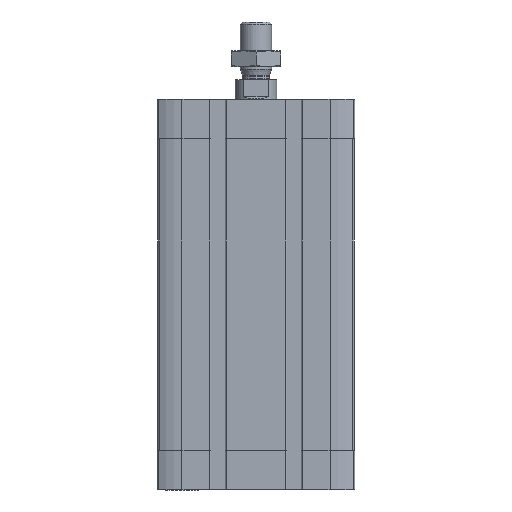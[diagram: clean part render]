
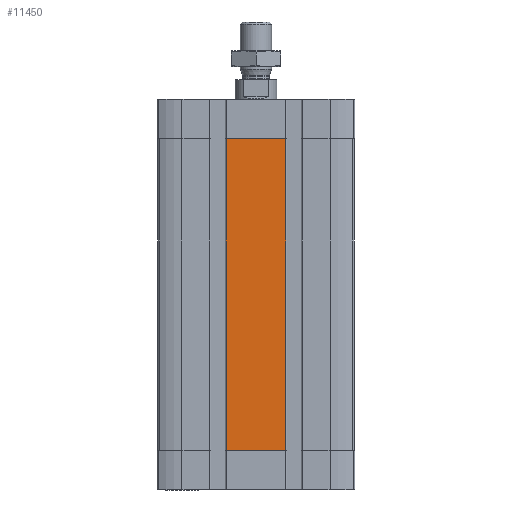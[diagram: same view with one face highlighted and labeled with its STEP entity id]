
A CAD part, front view. The second image highlights one B-rep face of the part: STEP entity #11450.
In plain terms, the highlighted planar face has unit normal (0, -1, 0).
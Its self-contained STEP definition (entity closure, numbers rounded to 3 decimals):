
#211 = VECTOR ( 'NONE', #3974, 1000. ) ;
#281 = LINE ( 'NONE', #13823, #211 ) ;
#376 = VERTEX_POINT ( 'NONE', #1372 ) ;
#463 = AXIS2_PLACEMENT_3D ( 'NONE', #5408, #10280, #7930 ) ;
#483 = ORIENTED_EDGE ( 'NONE', *, *, #13691, .T. ) ;
#1372 = CARTESIAN_POINT ( 'NONE',  ( 11.4, -37.5, -134. ) ) ;
#1490 = VECTOR ( 'NONE', #2810, 1000. ) ;
#1502 = LINE ( 'NONE', #7947, #1490 ) ;
#2112 = ORIENTED_EDGE ( 'NONE', *, *, #4850, .T. ) ;
#2810 = DIRECTION ( 'NONE',  ( 0., 0., 1. ) ) ;
#3974 = DIRECTION ( 'NONE',  ( 0., 0., -1. ) ) ;
#4198 = CARTESIAN_POINT ( 'NONE',  ( -11.4, -37.5, -15. ) ) ;
#4282 = FACE_OUTER_BOUND ( 'NONE', #14080, .T. ) ;
#4756 = DIRECTION ( 'NONE',  ( 1., 0., 0. ) ) ;
#4774 = CARTESIAN_POINT ( 'NONE',  ( -11.4, -37.5, -134. ) ) ;
#4846 = VECTOR ( 'NONE', #4756, 1000. ) ;
#4850 = EDGE_CURVE ( 'NONE', #9096, #376, #4864, .T. ) ;
#4864 = LINE ( 'NONE', #4774, #4846 ) ;
#5408 = CARTESIAN_POINT ( 'NONE',  ( -11.4, -37.5, -134. ) ) ;
#6660 = PLANE ( 'NONE',  #463 ) ;
#7480 = CARTESIAN_POINT ( 'NONE',  ( 0., -37.5, -15. ) ) ;
#7791 = VERTEX_POINT ( 'NONE', #13695 ) ;
#7930 = DIRECTION ( 'NONE',  ( 0., 0., -1. ) ) ;
#7947 = CARTESIAN_POINT ( 'NONE',  ( 11.4, -37.5, -134. ) ) ;
#7959 = ORIENTED_EDGE ( 'NONE', *, *, #12669, .T. ) ;
#8689 = CARTESIAN_POINT ( 'NONE',  ( -11.4, -37.5, -134. ) ) ;
#9096 = VERTEX_POINT ( 'NONE', #8689 ) ;
#10231 = VERTEX_POINT ( 'NONE', #4198 ) ;
#10280 = DIRECTION ( 'NONE',  ( 0., -1., 0. ) ) ;
#10728 = VECTOR ( 'NONE', #14813, 1000. ) ;
#11298 = LINE ( 'NONE', #7480, #10728 ) ;
#11324 = ORIENTED_EDGE ( 'NONE', *, *, #13184, .T. ) ;
#11450 = ADVANCED_FACE ( 'NONE', ( #4282 ), #6660, .T. ) ;
#12669 = EDGE_CURVE ( 'NONE', #376, #7791, #1502, .T. ) ;
#13184 = EDGE_CURVE ( 'NONE', #10231, #9096, #281, .T. ) ;
#13691 = EDGE_CURVE ( 'NONE', #7791, #10231, #11298, .T. ) ;
#13695 = CARTESIAN_POINT ( 'NONE',  ( 11.4, -37.5, -15. ) ) ;
#13823 = CARTESIAN_POINT ( 'NONE',  ( -11.4, -37.5, -134. ) ) ;
#14080 = EDGE_LOOP ( 'NONE', ( #2112, #7959, #483, #11324 ) ) ;
#14813 = DIRECTION ( 'NONE',  ( -1., 0., 0. ) ) ;
